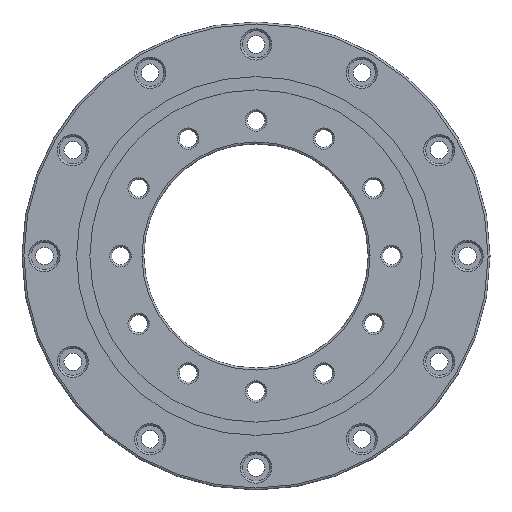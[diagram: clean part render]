
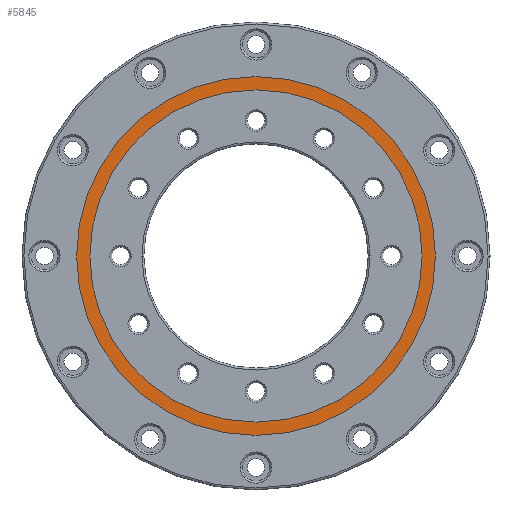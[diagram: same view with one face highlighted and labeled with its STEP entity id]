
A CAD part, front view. The second image highlights one B-rep face of the part: STEP entity #5845.
In plain terms, the highlighted planar face has unit normal (0, -1, 0).
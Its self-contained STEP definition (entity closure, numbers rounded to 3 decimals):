
#3575=EDGE_CURVE('',#3945,#3823,#8322,.T.);
#3823=VERTEX_POINT('',#8609);
#3945=VERTEX_POINT('',#8745);
#4641=EDGE_CURVE('',#3823,#3945,#9522,.T.);
#4761=EDGE_CURVE('',#6889,#5687,#9652,.T.);
#5687=VERTEX_POINT('',#10717);
#5845=ADVANCED_FACE('',(#10893,#10894),#10895,.T.);
#6573=EDGE_CURVE('',#5687,#6889,#11701,.T.);
#6889=VERTEX_POINT('',#12067);
#8322=CIRCLE('',#13901,85.2);
#8609=CARTESIAN_POINT('',(85.2,-1.3,0.0));
#8745=CARTESIAN_POINT('',(-85.2,-1.3,0.));
#9522=CIRCLE('',#15456,85.2);
#9652=CIRCLE('',#15623,92.0);
#10717=CARTESIAN_POINT('',(-92.0,-1.3,0.));
#10893=FACE_OUTER_BOUND('',#17237,.T.);
#10894=FACE_BOUND('',#17238,.T.);
#10895=PLANE('',#17239);
#11701=CIRCLE('',#18302,92.0);
#12067=CARTESIAN_POINT('',(92.0,-1.3,0.));
#13901=AXIS2_PLACEMENT_3D('',#20552,#20553,#20554);
#15456=AXIS2_PLACEMENT_3D('',#22126,#22127,#22128);
#15623=AXIS2_PLACEMENT_3D('',#22281,#22282,#22283);
#17237=EDGE_LOOP('',(#23928,#23929));
#17238=EDGE_LOOP('',(#23930,#23931));
#17239=AXIS2_PLACEMENT_3D('',#23932,#23933,#23934);
#18302=AXIS2_PLACEMENT_3D('',#24953,#24954,#24955);
#20552=CARTESIAN_POINT('',(0.0,-1.3,0.0));
#20553=DIRECTION('',(0.0,1.0,0.0));
#20554=DIRECTION('',(-1.0,0.0,0.0));
#22126=CARTESIAN_POINT('',(0.0,-1.3,0.0));
#22127=DIRECTION('',(-0.0,1.0,0.0));
#22128=DIRECTION('',(1.0,0.0,0.0));
#22281=CARTESIAN_POINT('',(0.0,-1.3,0.0));
#22282=DIRECTION('',(0.0,-1.0,0.0));
#22283=DIRECTION('',(1.0,0.0,0.0));
#23928=ORIENTED_EDGE('',*,*,#4761,.T.);
#23929=ORIENTED_EDGE('',*,*,#6573,.T.);
#23930=ORIENTED_EDGE('',*,*,#4641,.T.);
#23931=ORIENTED_EDGE('',*,*,#3575,.T.);
#23932=CARTESIAN_POINT('',(0.0,-1.3,0.0));
#23933=DIRECTION('',(0.0,-1.0,0.0));
#23934=DIRECTION('',(-1.0,0.0,0.0));
#24953=CARTESIAN_POINT('',(0.0,-1.3,0.0));
#24954=DIRECTION('',(0.0,-1.0,0.0));
#24955=DIRECTION('',(-1.0,0.0,0.0));
